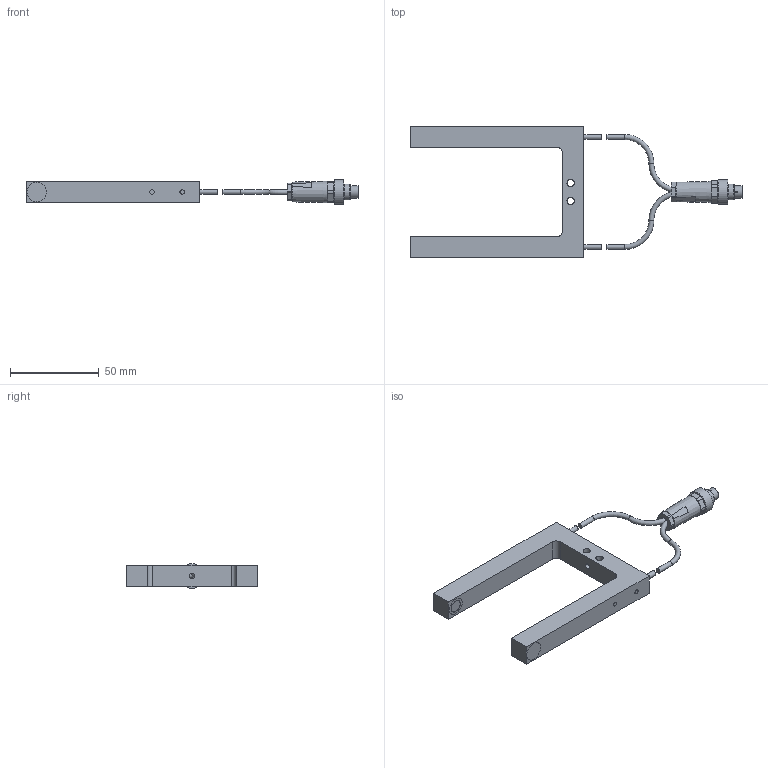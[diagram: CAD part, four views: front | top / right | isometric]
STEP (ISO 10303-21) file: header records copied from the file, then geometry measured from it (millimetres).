
FILE_DESCRIPTION(/* description */ (''),/* implementation_level */ '2;1');
FILE_NAME(/* name */ 'H:\ZVW\Inventor\E-Mail-Zeichnungen\STEP\HOMEPAGE\A-LAS-F12-...-50_80-C_0720_00.stp',/* time_stamp */ '2014-08-18T16:47:41+02:00',/* author */ ('TK-01'),/* organization */ (''),/* preprocessor_version */ 'ST-DEVELOPER v15.2',/* originating_system */ 'Autodesk Inventor 2014',/* authorisation */ '');
FILE_SCHEMA (('AUTOMOTIVE_DESIGN { 1 0 10303 214 3 1 1 }'));
Length unit declared in the file: millimetre
Products named in the file (1): Bauteil20
Bounding box: 187.1 x 74 x 14 mm (x, y, z)
Volume: 144673.4 mm3; surface area: 53743.3 mm2
Topology: 8 solids, 12 shells, 160 faces, 352 edges, 232 vertices
Faces by surface type: plane 72, cylinder 60, cone 11, sphere 9, torus 6, bspline 2
Full cylindrical faces by diameter (mm): 0.5 x7, 2.5 x8, 2.8 x4, 2.9 x2, 3.2 x1, 4.1 x2, 5.5 x1, 6 x1, 6.8 x1, 7.1 x1, 7.15 x2, 7.5 x1, 8 x1, 9 x2, 10 x2, 14 x1
Entity records: 4361 total; most frequent: CARTESIAN_POINT 931, DIRECTION 708, ORIENTED_EDGE 544, AXIS2_PLACEMENT_3D 310, EDGE_CURVE 268, EDGE_LOOP 250, VERTEX_POINT 204, ADVANCED_FACE 160
